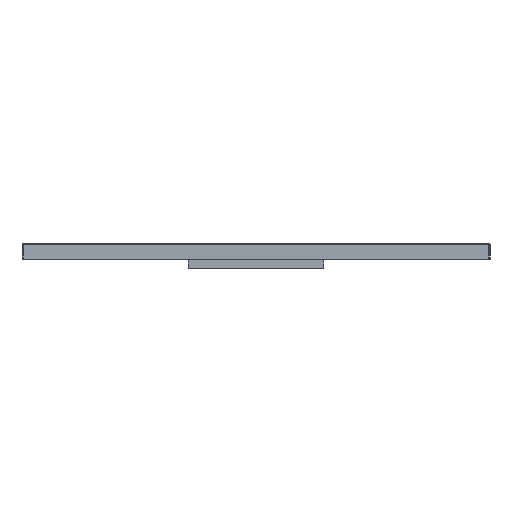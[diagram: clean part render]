
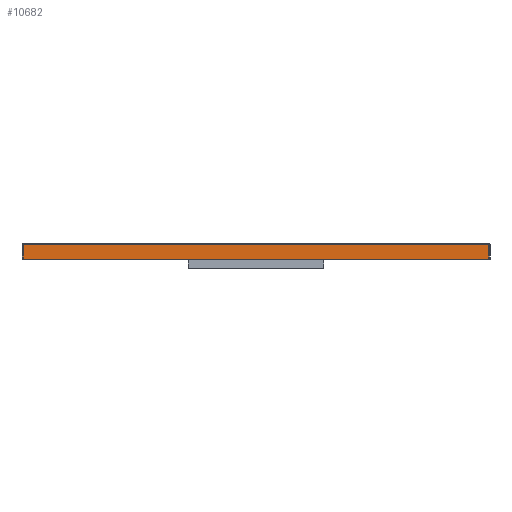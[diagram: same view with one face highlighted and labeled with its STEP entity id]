
A CAD part, left-side view. The second image highlights one B-rep face of the part: STEP entity #10682.
In plain terms, the highlighted planar face has unit normal (-1, 0, 0).
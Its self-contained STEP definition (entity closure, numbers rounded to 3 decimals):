
#103 = LINE ( 'NONE', #8406, #9921 ) ;
#403 = CARTESIAN_POINT ( 'NONE',  ( -84.056, 147.874, -2.081 ) ) ;
#504 = LINE ( 'NONE', #5263, #11475 ) ;
#526 = CARTESIAN_POINT ( 'NONE',  ( -84.056, 46.403, -2.015 ) ) ;
#1364 = CARTESIAN_POINT ( 'NONE',  ( -84.056, 84.321, -2.083 ) ) ;
#1427 = CARTESIAN_POINT ( 'NONE',  ( -84.056, 122.906, -2.086 ) ) ;
#1484 = CARTESIAN_POINT ( 'NONE',  ( -84.056, 798.906, -2.078 ) ) ;
#1610 = PLANE ( 'NONE',  #6410 ) ;
#1642 = LINE ( 'NONE', #6174, #5622 ) ;
#1715 = VERTEX_POINT ( 'NONE', #8816 ) ;
#1796 = CARTESIAN_POINT ( 'NONE',  ( -84.056, 938.93, 0. ) ) ;
#2228 = CARTESIAN_POINT ( 'NONE',  ( -84.056, 557.713, -2.072 ) ) ;
#2846 = VERTEX_POINT ( 'NONE', #7976 ) ;
#3091 = CARTESIAN_POINT ( 'NONE',  ( -84.056, 935.322, -2.008 ) ) ;
#3160 = VERTEX_POINT ( 'NONE', #9900 ) ;
#3217 = CARTESIAN_POINT ( 'NONE',  ( -84.056, 850.136, -2.084 ) ) ;
#3222 = EDGE_LOOP ( 'NONE', ( #8112, #8026, #3831, #11990 ) ) ;
#3225 = B_SPLINE_CURVE_WITH_KNOTS ( 'NONE', 3,
 ( #7849, #3091, #11589, #8825, #6815, #9799, #10792, #3217, #6139, #1484, #9624, #11524, #2228, #5954, #6936, #8760, #403, #1427, #8886, #1364, #10666, #5163, #526, #5103, #6998 ),
 .UNSPECIFIED., .F., .F.,
 ( 4, 1, 1, 1, 1, 1, 1, 1, 1, 1, 1, 1, 1, 1, 1, 1, 1, 1, 1, 1, 1, 1, 4 ),
 ( 2.005, 6.831, 13.661, 27.323, 47.815, 64.892, 85.384, 116.122, 136.614, 167.352, 228.829, 351.782, 563.055, 709.351, 763.825, 791.062, 818.299, 838.726, 852.345, 872.773, 886.391, 893.2, 898.005 ),
 .UNSPECIFIED. ) ;
#3831 = ORIENTED_EDGE ( 'NONE', *, *, #6640, .F. ) ;
#4469 = EDGE_CURVE ( 'NONE', #2846, #3160, #504, .T. ) ;
#5103 = CARTESIAN_POINT ( 'NONE',  ( -84.056, 42.532, -2.008 ) ) ;
#5163 = CARTESIAN_POINT ( 'NONE',  ( -84.056, 54.814, -2.032 ) ) ;
#5200 = DIRECTION ( 'NONE',  ( 0., 0., 1. ) ) ;
#5263 = CARTESIAN_POINT ( 'NONE',  ( -84.056, 40.93, -2.005 ) ) ;
#5622 = VECTOR ( 'NONE', #5200, 1000. ) ;
#5885 = CARTESIAN_POINT ( 'NONE',  ( -84.056, 936.93, -30. ) ) ;
#5954 = CARTESIAN_POINT ( 'NONE',  ( -84.056, 397.539, -2.072 ) ) ;
#5998 = DIRECTION ( 'NONE',  ( 0., 0., -1. ) ) ;
#6139 = CARTESIAN_POINT ( 'NONE',  ( -84.056, 826.229, -2.08 ) ) ;
#6174 = CARTESIAN_POINT ( 'NONE',  ( -84.056, 936.93, -30. ) ) ;
#6358 = VERTEX_POINT ( 'NONE', #5885 ) ;
#6410 = AXIS2_PLACEMENT_3D ( 'NONE', #1796, #7350, #11949 ) ;
#6640 = EDGE_CURVE ( 'NONE', #6358, #1715, #1642, .T. ) ;
#6815 = CARTESIAN_POINT ( 'NONE',  ( -84.056, 909.336, -2.06 ) ) ;
#6936 = CARTESIAN_POINT ( 'NONE',  ( -84.056, 260.192, -2.073 ) ) ;
#6998 = CARTESIAN_POINT ( 'NONE',  ( -84.056, 40.93, -2.005 ) ) ;
#7187 = FACE_OUTER_BOUND ( 'NONE', #3222, .T. ) ;
#7350 = DIRECTION ( 'NONE',  ( 1., 0., 0. ) ) ;
#7849 = CARTESIAN_POINT ( 'NONE',  ( -84.056, 936.93, -2.005 ) ) ;
#7976 = CARTESIAN_POINT ( 'NONE',  ( -84.056, 40.93, -2.005 ) ) ;
#8026 = ORIENTED_EDGE ( 'NONE', *, *, #11951, .F. ) ;
#8112 = ORIENTED_EDGE ( 'NONE', *, *, #4469, .F. ) ;
#8406 = CARTESIAN_POINT ( 'NONE',  ( -84.056, 40.93, -30. ) ) ;
#8760 = CARTESIAN_POINT ( 'NONE',  ( -84.056, 184.189, -2.077 ) ) ;
#8816 = CARTESIAN_POINT ( 'NONE',  ( -84.056, 936.93, -2.005 ) ) ;
#8825 = CARTESIAN_POINT ( 'NONE',  ( -84.056, 922.997, -2.032 ) ) ;
#8886 = CARTESIAN_POINT ( 'NONE',  ( -84.056, 102.479, -2.089 ) ) ;
#9624 = CARTESIAN_POINT ( 'NONE',  ( -84.056, 761.337, -2.075 ) ) ;
#9799 = CARTESIAN_POINT ( 'NONE',  ( -84.056, 892.259, -2.085 ) ) ;
#9900 = CARTESIAN_POINT ( 'NONE',  ( -84.056, 40.93, -30. ) ) ;
#9921 = VECTOR ( 'NONE', #11041, 1000. ) ;
#10666 = CARTESIAN_POINT ( 'NONE',  ( -84.056, 68.432, -2.06 ) ) ;
#10682 = ADVANCED_FACE ( 'NONE', ( #7187 ), #1610, .F. ) ;
#10792 = CARTESIAN_POINT ( 'NONE',  ( -84.056, 872.905, -2.089 ) ) ;
#10826 = EDGE_CURVE ( 'NONE', #3160, #6358, #103, .T. ) ;
#11041 = DIRECTION ( 'NONE',  ( 0., 1., 0. ) ) ;
#11475 = VECTOR ( 'NONE', #5998, 1000. ) ;
#11524 = CARTESIAN_POINT ( 'NONE',  ( -84.056, 689.614, -2.073 ) ) ;
#11589 = CARTESIAN_POINT ( 'NONE',  ( -84.056, 931.436, -2.015 ) ) ;
#11949 = DIRECTION ( 'NONE',  ( 0., 1., 0. ) ) ;
#11951 = EDGE_CURVE ( 'NONE', #1715, #2846, #3225, .T. ) ;
#11990 = ORIENTED_EDGE ( 'NONE', *, *, #10826, .F. ) ;
